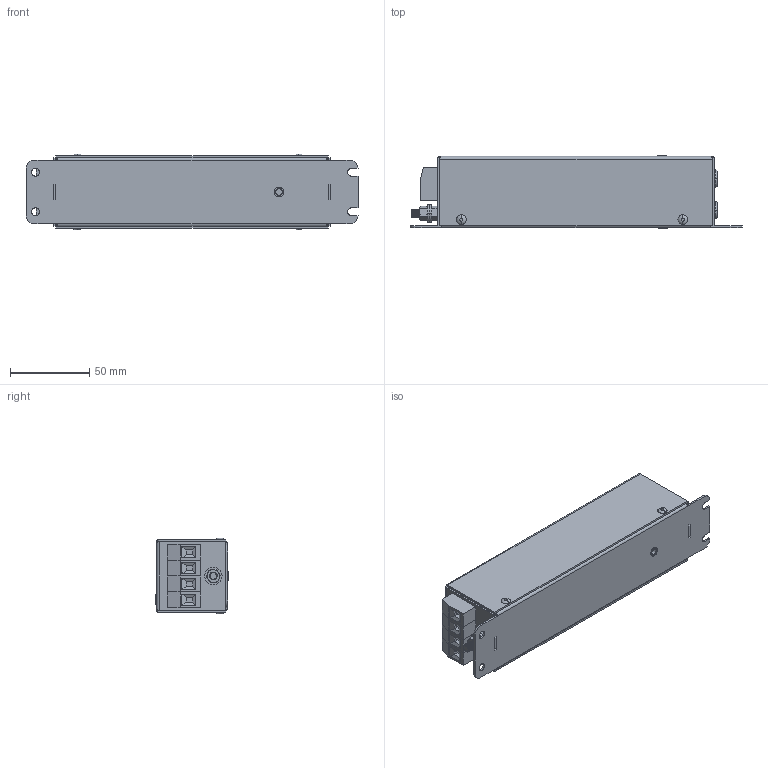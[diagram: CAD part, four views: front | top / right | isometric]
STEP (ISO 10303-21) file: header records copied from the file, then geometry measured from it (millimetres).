
FILE_DESCRIPTION (( 'STEP AP203' ), '1' );
FILE_NAME ('RF1005-SG7 assembly.STEP', '2016-03-09T15:56:44', ( '' ), ( '' ), 'SwSTEP 2.0', 'SolidWorks 2016', '' );
FILE_SCHEMA (( 'CONFIG_CONTROL_DESIGN' ));
Length unit declared in the file: millimetre
Products named in the file (12): hex nut style 1_am_B18.2.4.1M - Hex nut, Style 1,  M5 x 0.8 --D-N; Hex Screw_AM_B18.6.7M - M5 x 0.8 x 13 Indented HHMS --13S; VDFK-4; RF1005-SG7 assembly; RF1005-SG7 box; M5x20 Earth post; blind fastener_pmm_PEM B-M4-1 ZI--N; M4 Hank; Grommet_15065; Flat Washer Narrow_AM_B18.22M - Plain washer, 5 mm, narrow; 3.5mm Rivet; RF1005-SG7 LID
Assembly tree (23 placements, depth 3):
  RF1005-SG7 assembly
    RF1005-SG7 box
    RF1005-SG7 LID
    M5x20 Earth post
      Flat Washer Narrow_AM_B18.22M - Plain washer, 5 mm, narrow  x2
      hex nut style 1_am_B18.2.4.1M - Hex nut, Style 1,  M5 x 0.8 --D-N
      Hex Screw_AM_B18.6.7M - M5 x 0.8 x 13 Indented HHMS --13S
    Grommet_15065  x2
    3.5mm Rivet  x4
    VDFK-4  x4
    M4 Hank  x2
    blind fastener_pmm_PEM B-M4-1 ZI--N  x4
Bounding box: 210 x 45.6 x 48 mm (x, y, z)
Volume: 57150.4 mm3; surface area: 87241.9 mm2
Topology: 22 solids, 22 shells, 870 faces, 2126 edges, 1340 vertices
Faces by surface type: plane 462, cylinder 228, cone 156, torus 16, bspline 8
Entity records: 15605 total; most frequent: CARTESIAN_POINT 2876, DIRECTION 2449, ORIENTED_EDGE 2234, EDGE_CURVE 1117, AXIS2_PLACEMENT_3D 910, VERTEX_POINT 697, VECTOR 629, LINE 629
